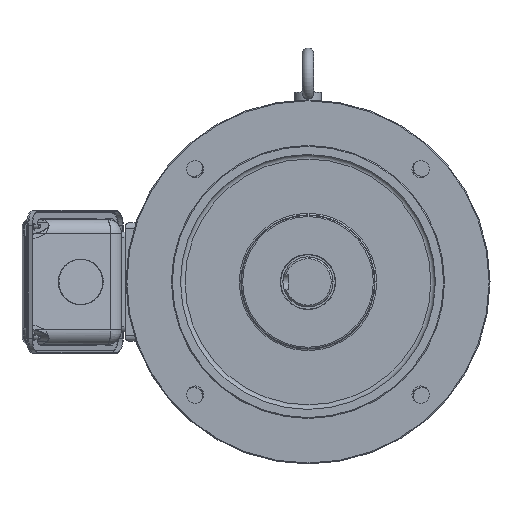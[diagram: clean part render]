
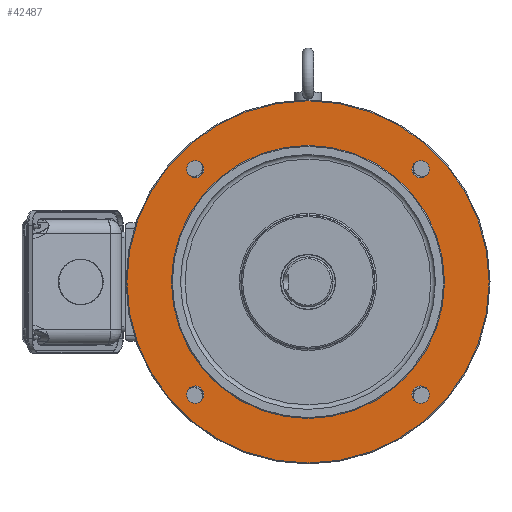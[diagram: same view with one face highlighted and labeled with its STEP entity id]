
A CAD part, front view. The second image highlights one B-rep face of the part: STEP entity #42487.
In plain terms, the highlighted planar face has unit normal (0, -1, 0).
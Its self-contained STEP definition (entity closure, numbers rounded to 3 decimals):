
#1562=CIRCLE('',#45210,150.);
#1573=CIRCLE('',#45228,199.);
#1574=CIRCLE('',#45229,9.5);
#1575=CIRCLE('',#45230,9.5);
#1576=CIRCLE('',#45231,9.5);
#1577=CIRCLE('',#45232,9.5);
#7345=ORIENTED_EDGE('',*,*,#17149,.T.);
#7346=ORIENTED_EDGE('',*,*,#17138,.F.);
#7347=ORIENTED_EDGE('',*,*,#17150,.F.);
#7348=ORIENTED_EDGE('',*,*,#17151,.F.);
#7349=ORIENTED_EDGE('',*,*,#17152,.F.);
#7350=ORIENTED_EDGE('',*,*,#17153,.F.);
#17138=EDGE_CURVE('',#22218,#22218,#1562,.T.);
#17149=EDGE_CURVE('',#22229,#22229,#1573,.F.);
#17150=EDGE_CURVE('',#22230,#22230,#1574,.T.);
#17151=EDGE_CURVE('',#22231,#22231,#1575,.T.);
#17152=EDGE_CURVE('',#22232,#22232,#1576,.T.);
#17153=EDGE_CURVE('',#22233,#22233,#1577,.T.);
#22218=VERTEX_POINT('',#67520);
#22229=VERTEX_POINT('',#67549);
#22230=VERTEX_POINT('',#67551);
#22231=VERTEX_POINT('',#67553);
#22232=VERTEX_POINT('',#67555);
#22233=VERTEX_POINT('',#67557);
#29328=EDGE_LOOP('',(#7345));
#29329=EDGE_LOOP('',(#7346));
#29330=EDGE_LOOP('',(#7347));
#29331=EDGE_LOOP('',(#7348));
#29332=EDGE_LOOP('',(#7349));
#29333=EDGE_LOOP('',(#7350));
#32037=FACE_BOUND('',#29328,.T.);
#32038=FACE_BOUND('',#29329,.T.);
#32039=FACE_BOUND('',#29330,.T.);
#32040=FACE_BOUND('',#29331,.T.);
#32041=FACE_BOUND('',#29332,.T.);
#32042=FACE_BOUND('',#29333,.T.);
#34361=PLANE('',#45227);
#42487=ADVANCED_FACE('',(#32037,#32038,#32039,#32040,#32041,#32042),#34361,
 .F.);
#45210=AXIS2_PLACEMENT_3D('',#67519,#50603,#50604);
#45227=AXIS2_PLACEMENT_3D('',#67547,#50637,#50638);
#45228=AXIS2_PLACEMENT_3D('',#67548,#50639,#50640);
#45229=AXIS2_PLACEMENT_3D('',#67550,#50641,#50642);
#45230=AXIS2_PLACEMENT_3D('',#67552,#50643,#50644);
#45231=AXIS2_PLACEMENT_3D('',#67554,#50645,#50646);
#45232=AXIS2_PLACEMENT_3D('',#67556,#50647,#50648);
#50603=DIRECTION('',(0.,-1.,0.));
#50604=DIRECTION('',(0.,0.,-1.));
#50637=DIRECTION('',(0.,1.,0.));
#50638=DIRECTION('',(0.,0.,1.));
#50639=DIRECTION('',(0.,1.,0.));
#50640=DIRECTION('',(0.,0.,1.));
#50641=DIRECTION('',(0.,-1.,0.));
#50642=DIRECTION('',(-1.,0.,0.));
#50643=DIRECTION('',(0.,-1.,0.));
#50644=DIRECTION('',(0.,0.,1.));
#50645=DIRECTION('',(0.,-1.,0.));
#50646=DIRECTION('',(0.,0.,-1.));
#50647=DIRECTION('',(0.,-1.,0.));
#50648=DIRECTION('',(1.,0.,0.));
#67519=CARTESIAN_POINT('',(0.,5.,0.));
#67520=CARTESIAN_POINT('',(0.,5.,-150.));
#67547=CARTESIAN_POINT('',(0.,5.,200.));
#67548=CARTESIAN_POINT('',(0.,5.,0.));
#67549=CARTESIAN_POINT('',(0.,5.,199.));
#67550=CARTESIAN_POINT('',(-123.744,5.,123.744));
#67551=CARTESIAN_POINT('',(-133.244,5.,123.744));
#67552=CARTESIAN_POINT('',(123.744,5.,123.744));
#67553=CARTESIAN_POINT('',(123.744,5.,133.244));
#67554=CARTESIAN_POINT('',(-123.744,5.,-123.744));
#67555=CARTESIAN_POINT('',(-123.744,5.,-133.244));
#67556=CARTESIAN_POINT('',(123.744,5.,-123.744));
#67557=CARTESIAN_POINT('',(133.244,5.,-123.744));
